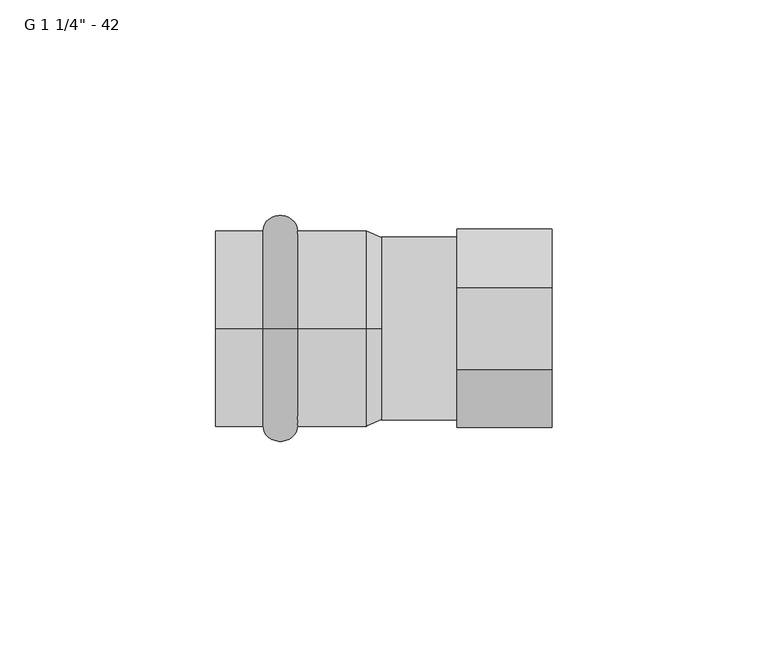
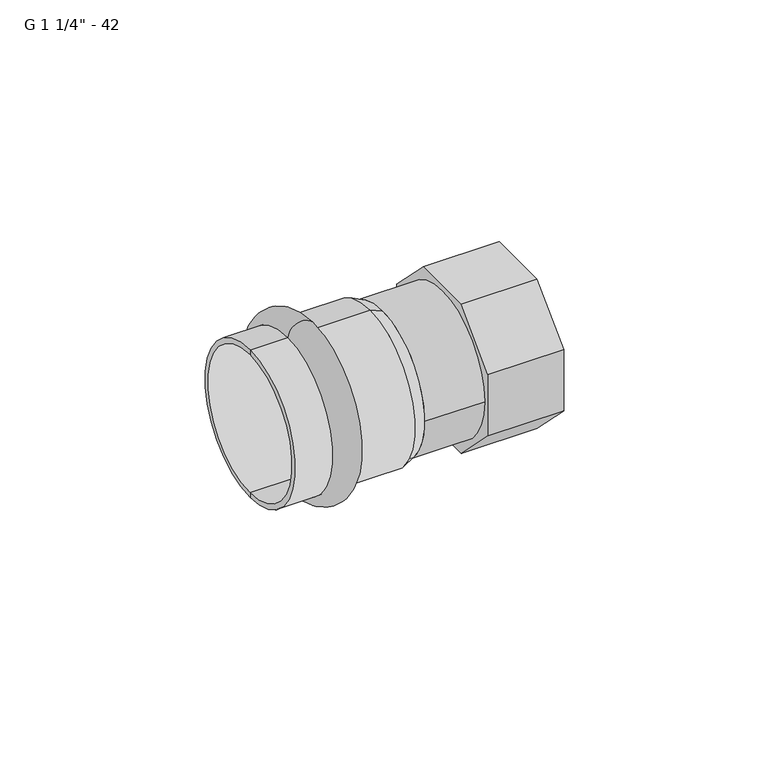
"""IFC4 building model written with IfcOpenShell, lengths in millimetres: pipe fitting geometry."""

from ifc_helpers import new_model, si_unit, point, frame, origin, origin_2d, place, context, project, spatial, polyline, circle_curve, ellipse_curve, trimmed, segment, composite_curve, outline, extrude, source, transform, mapped, element, save
from ifc_brep_helpers import plane_surface, cylinder_surface, revolved_surface, advanced_brep


def pipe_fitting_594c53a3(model_context):
    return source(origin(), model_context, "Body", "SolidModel", [
        advanced_brep(
        [(-24.0, 0.0, 22.75), (-24.0, 0.0, -22.75), (-16.0, 0.0, -22.75), (-16.0, 0.0, 22.75)],
        [
            (0, 1, circle_curve(frame((-24.0, 0.0, 0.0), z_axis=(-1.0, 0.0, 0.0), x_axis=(0.0, 0.0, -1.0)), 22.75)),
            (1, 2),
            (2, 3, circle_curve(frame((-16.0, 0.0, 0.0), z_axis=(1.0, 0.0, 0.0), x_axis=(0.0, 0.0, -1.0)), 22.75)),
            (3, 0),
            (1, 0, circle_curve(frame((-24.0, 0.0, 0.0), z_axis=(-1.0, 0.0, 0.0), x_axis=(0.0, 0.0, -1.0)), 22.75)),
            (3, 2, circle_curve(frame((-16.0, 0.0, 0.0), z_axis=(1.0, 0.0, 0.0), x_axis=(0.0, 0.0, -1.0)), 22.75)),
            (2, 1, ellipse_curve(frame((-20.0, 0.0, -22.75), z_axis=(0.0, 1.0, 0.0), x_axis=(-1.0, 0.0, 0.0)), 4.0, 3.6)),
            (0, 3, ellipse_curve(frame((-20.0, 0.0, 22.75), z_axis=(0.0, 1.0, 0.0), x_axis=(-1.0, 0.0, 0.0)), 4.0, 3.6)),
        ],
        [
            revolved_surface(polyline([(-16.0, 0.0, -22.75), (-24.0, 0.0, -22.75)]), (4.0, 0.0, 0.0), (1.0, 0.0, 0.0)),
            revolved_surface(trimmed(ellipse_curve(frame((-20.0, 0.0, -22.75), z_axis=(0.0, -1.0, 0.0), x_axis=(-1.0, 0.0, 0.0)), 4.0, 3.6), [point((-24.0, 0.0, -22.75))], [point((-16.0, 0.0, -22.75))], True, "CARTESIAN"), (4.0, 0.0, 0.0), (1.0, 0.0, 0.0)),
        ],
        [
            (0, [[1, 2, 3, 4]]),
            (0, [[5, -4, 6, -2]]),
            (1, [[-3, 7, -1, 8]]),
            (1, [[-6, -8, -5, -7]]),
        ],
    ),
        advanced_brep(
        [(3.5337785, 0.0, 21.25), (3.5337785, 0.0, -21.25), (0.0, 0.0, -22.75), (0.0, 0.0, 22.75), (-35.0, 0.0, 21.25), (-35.0, 0.0, -21.25), (-35.0, 0.0, 22.75), (-35.0, 0.0, -22.75)],
        [
            (0, 1, circle_curve(frame((3.5337785, 0.0, 0.0), z_axis=(-1.0, 0.0, 0.0), x_axis=(0.0, 0.0, -1.0)), 21.25)),
            (1, 2),
            (2, 3, circle_curve(frame((0.0, 0.0, 0.0), z_axis=(1.0, 0.0, 0.0), x_axis=(0.0, 0.0, -1.0)), 22.75)),
            (3, 0),
            (1, 0, circle_curve(frame((3.5337785, 0.0, 0.0), z_axis=(-1.0, 0.0, 0.0), x_axis=(0.0, 0.0, -1.0)), 21.25)),
            (3, 2, circle_curve(frame((0.0, 0.0, 0.0), z_axis=(1.0, 0.0, 0.0), x_axis=(0.0, 0.0, -1.0)), 22.75)),
            (4, 5, circle_curve(frame((-35.0, 0.0, 0.0), z_axis=(-1.0, 0.0, 0.0), x_axis=(0.0, 0.0, -1.0)), 21.25)),
            (5, 1),
            (0, 4),
            (5, 4, circle_curve(frame((-35.0, 0.0, 0.0), z_axis=(-1.0, 0.0, 0.0), x_axis=(0.0, 0.0, -1.0)), 21.25)),
            (6, 7, circle_curve(frame((-35.0, 0.0, 0.0), z_axis=(-1.0, 0.0, 0.0), x_axis=(0.0, 0.0, -1.0)), 22.75)),
            (7, 5),
            (4, 6),
            (7, 6, circle_curve(frame((-35.0, 0.0, 0.0), z_axis=(-1.0, 0.0, 0.0), x_axis=(0.0, 0.0, -1.0)), 22.75)),
            (2, 7),
            (6, 3),
        ],
        [
            revolved_surface(polyline([(0.0, 0.0, -22.75), (3.5337785, 0.0, -21.25)]), (4.0, 0.0, 0.0), (1.0, 0.0, 0.0)),
            revolved_surface(polyline([(3.5337785, 0.0, -21.25), (-35.0, 0.0, -21.25)]), (4.0, 0.0, 0.0), (1.0, 0.0, 0.0)),
            plane_surface(frame((-35.0, 0.0, 0.0), z_axis=(-1.0, 0.0, 0.0), x_axis=(0.0, 0.0, -1.0))),
            cylinder_surface(frame((4.0, 0.0, 0.0), z_axis=(1.0, 0.0, 0.0), x_axis=(0.0, 0.0, -1.0)), 22.75),
        ],
        [
            (0, [[1, 2, 3, 4]]),
            (0, [[5, -4, 6, -2]]),
            (1, [[7, 8, -1, 9]]),
            (1, [[10, -9, -5, -8]]),
            (2, [[11, 12, -7, 13]]),
            (2, [[14, -13, -10, -12]]),
            (3, [[-3, 15, -11, 16]]),
            (3, [[-6, -16, -14, -15]]),
        ],
    ),
        extrude(outline(composite_curve([segment(trimmed(circle_curve(origin_2d(), 21.25), [point((-21.25, 0.0))], [point((21.25, 0.0))], False, "CARTESIAN"), True, "CONTINUOUS"), segment(trimmed(circle_curve(origin_2d(), 21.25), [point((21.25, 0.0))], [point((-21.25, 0.0))], False, "CARTESIAN"), True, "CONTINUOUS")], self_intersect=False)), frame((3.5337785, 0.0, 0.0), z_axis=(1.0, 0.0, 0.0), x_axis=(0.0, 1.0, 0.0)), (0.0, 0.0, 1.0), 17.5),
        advanced_brep(
        [(43.0337785, -23.0, -9.5269119), (21.0337785, -23.0, -9.5269119), (21.0337785, -9.5269119, -23.0), (43.0337785, -9.5269119, -23.0), (21.0337785, 9.5269119, -23.0), (43.0337785, 9.5269119, -23.0), (43.0337785, 23.0, 9.5269119), (21.0337785, 23.0, 9.5269119), (21.0337785, 9.5269119, 23.0), (43.0337785, 9.5269119, 23.0), (21.0337785, -9.5269119, 23.0), (43.0337785, -9.5269119, 23.0), (21.0337785, 23.0, -9.5269119), (43.0337785, 23.0, -9.5269119), (21.0337785, -23.0, 9.5269119), (43.0337785, -23.0, 9.5269119), (27.0337785, -21.0, 0.0), (27.0337785, 21.0, 0.0), (27.0337785, -5.3847763, -13.0), (27.0337785, -13.0, -5.3847763), (27.0337785, -13.0, 5.3847763), (27.0337785, -5.3847763, 13.0), (27.0337785, 5.3847763, 13.0), (27.0337785, 13.0, 5.3847763), (27.0337785, 13.0, -5.3847763), (27.0337785, 5.3847763, -13.0), (43.0337785, 21.0, 0.0), (43.0337785, -21.0, 0.0), (21.0337785, -13.0, -5.3847763), (21.0337785, -5.3847763, -13.0), (21.0337785, 5.3847763, -13.0), (21.0337785, 13.0, -5.3847763), (21.0337785, 13.0, 5.3847763), (21.0337785, 5.3847763, 13.0), (21.0337785, -5.3847763, 13.0), (21.0337785, -13.0, 5.3847763)],
        [
            (0, 1),
            (1, 2),
            (2, 3),
            (3, 0),
            (2, 4),
            (4, 5),
            (5, 3),
            (6, 7),
            (7, 8),
            (8, 9),
            (9, 6),
            (8, 10),
            (10, 11),
            (11, 9),
            (4, 12),
            (12, 13),
            (13, 5),
            (10, 14),
            (14, 15),
            (15, 11),
            (16, 17, circle_curve(frame((27.0337785, 0.0, 0.0), z_axis=(1.0, 0.0, 0.0), x_axis=(0.0, 1.0, 0.0)), 21.0)),
            (17, 16, circle_curve(frame((27.0337785, 0.0, 0.0), z_axis=(1.0, 0.0, 0.0), x_axis=(0.0, 1.0, 0.0)), 21.0)),
            (18, 19),
            (19, 20),
            (20, 21),
            (21, 22),
            (22, 23),
            (23, 24),
            (24, 25),
            (25, 18),
            (17, 26),
            (26, 27, circle_curve(frame((43.0337785, 0.0, 0.0), z_axis=(1.0, 0.0, 0.0), x_axis=(0.0, 1.0, 0.0)), 21.0)),
            (27, 16),
            (27, 26, circle_curve(frame((43.0337785, 0.0, 0.0), z_axis=(1.0, 0.0, 0.0), x_axis=(0.0, 1.0, 0.0)), 21.0)),
            (6, 13),
            (12, 7),
            (15, 0),
            (1, 14),
            (28, 29),
            (29, 30),
            (30, 31),
            (31, 32),
            (32, 33),
            (33, 34),
            (34, 35),
            (35, 28),
            (28, 19),
            (18, 29),
            (25, 30),
            (32, 23),
            (22, 33),
            (21, 34),
            (24, 31),
            (20, 35),
        ],
        [
            plane_surface(frame((21.0337785, -23.0, -9.5269119), z_axis=(0.0, -0.7071067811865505, -0.7071067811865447), x_axis=(0.0, 0.7071067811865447, -0.7071067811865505))),
            plane_surface(frame((21.0337785, -9.5269119, -23.0), z_axis=(0.0, 0.0, -1.0), x_axis=(0.0, 1.0, 0.0))),
            plane_surface(frame((21.0337785, 23.0, 9.5269119), z_axis=(0.0, 0.7071067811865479, 0.7071067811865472), x_axis=(0.0, -0.7071067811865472, 0.7071067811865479))),
            plane_surface(frame((21.0337785, 9.5269119, 23.0), z_axis=(0.0, 0.0, 1.0), x_axis=(0.0, -1.0, 0.0))),
            plane_surface(frame((21.0337785, 9.5269119, -23.0), z_axis=(0.0, 0.7071067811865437, -0.7071067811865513), x_axis=(0.0, 0.7071067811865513, 0.7071067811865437))),
            plane_surface(frame((21.0337785, -9.5269119, 23.0), z_axis=(0.0, -0.7071067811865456, 0.7071067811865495), x_axis=(0.0, -0.7071067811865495, -0.7071067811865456))),
            plane_surface(frame((27.0337785, 21.0, 0.0), z_axis=(1.0, 0.0, 0.0), x_axis=(0.0, 0.0, -1.0))),
            revolved_surface(polyline([(43.0337785, 21.0, 0.0), (27.0337785, 21.0, 0.0)]), (27.0337785, 0.0, 0.0), (1.0, 0.0, 0.0)),
            plane_surface(frame((21.0337785, 23.0, -9.5269119), z_axis=(0.0, 1.0, 0.0), x_axis=(0.0, 0.0, 1.0))),
            plane_surface(frame((43.0337785, -23.0, 9.5269119), z_axis=(1.0, 0.0, 0.0), x_axis=(0.0, 0.0, -1.0))),
            plane_surface(frame((21.0337785, -13.0, 5.3847763), z_axis=(-1.0, 0.0, 0.0), x_axis=(0.0, 0.0, -1.0))),
            plane_surface(frame((21.0337785, -23.0, 9.5269119), z_axis=(0.0, -1.0, 0.0), x_axis=(0.0, 0.0, -1.0))),
            plane_surface(frame((43.0337785, -13.0, -5.3847763), z_axis=(0.0, 0.7071067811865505, 0.7071067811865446), x_axis=(0.0, 0.7071067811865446, -0.7071067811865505))),
            plane_surface(frame((43.0337785, -5.3847763, -13.0), z_axis=(0.0, 0.0, 1.0), x_axis=(0.0, 1.0, 0.0))),
            plane_surface(frame((43.0337785, 13.0, 5.3847763), z_axis=(0.0, -0.707106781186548, -0.707106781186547), x_axis=(0.0, -0.707106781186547, 0.707106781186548))),
            plane_surface(frame((43.0337785, 5.3847763, 13.0), z_axis=(0.0, 0.0, -1.0), x_axis=(0.0, -1.0, 0.0))),
            plane_surface(frame((43.0337785, 5.3847763, -13.0), z_axis=(0.0, -0.7071067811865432, 0.707106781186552), x_axis=(0.0, 0.707106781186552, 0.7071067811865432))),
            plane_surface(frame((43.0337785, -5.3847763, 13.0), z_axis=(0.0, 0.7071067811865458, -0.7071067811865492), x_axis=(0.0, -0.7071067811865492, -0.7071067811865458))),
            plane_surface(frame((43.0337785, 13.0, -5.3847763), z_axis=(0.0, -1.0, 0.0), x_axis=(0.0, 0.0, 1.0))),
            plane_surface(frame((43.0337785, -13.0, 5.3847763), z_axis=(0.0, 1.0, 0.0), x_axis=(0.0, 0.0, -1.0))),
        ],
        [
            (0, [[1, 2, 3, 4]]),
            (1, [[-3, 5, 6, 7]]),
            (2, [[8, 9, 10, 11]]),
            (3, [[-10, 12, 13, 14]]),
            (4, [[-6, 15, 16, 17]]),
            (5, [[-13, 18, 19, 20]]),
            (6, [[21, 22], [23, 24, 25, 26, 27, 28, 29, 30]]),
            (7, [[-22, 31, 32, 33]]),
            (7, [[-21, -33, 34, -31]]),
            (8, [[-8, 35, -16, 36]]),
            (9, [[-4, -7, -17, -35, -11, -14, -20, 37], [-32, -34]]),
            (10, [[-2, 38, -18, -12, -9, -36, -15, -5], [39, 40, 41, 42, 43, 44, 45, 46]]),
            (11, [[-1, -37, -19, -38]]),
            (12, [[-39, 47, -23, 48]]),
            (13, [[-40, -48, -30, 49]]),
            (14, [[-43, 50, -27, 51]]),
            (15, [[-44, -51, -26, 52]]),
            (16, [[-41, -49, -29, 53]]),
            (17, [[-45, -52, -25, 54]]),
            (18, [[-42, -53, -28, -50]]),
            (19, [[-46, -54, -24, -47]]),
        ],
    ),
    ])


if __name__ == "__main__":
    model = new_model("IFC4")
    model_context = context("Model", 3, world=origin())
    ifc_project = project(units=[si_unit("LENGTHUNIT", "METRE", prefix="MILLI")], contexts=[model_context])
    site = spatial("IfcSite", under=ifc_project)
    building = spatial("IfcBuilding", under=site)
    placement = place(None, origin())
    pipe_fitting_shape = pipe_fitting_594c53a3(model_context)
    element("IfcPipeFitting", 1, ObjectType="РЕХАУ_Пресс Муфта с накидной гайкой : G 1 1/4\" - 42", at=placement, inside=building, context=model_context, shape_type="MappedRepresentation", body=[
        mapped(pipe_fitting_shape, transform((0.0, 0.0, 0.0), x_axis=(1.0, 0.0, 0.0), y_axis=(0.0, 1.0, 0.0), z_axis=(0.0, 0.0, 1.0))),
    ])
    save(model, "model.ifc")
